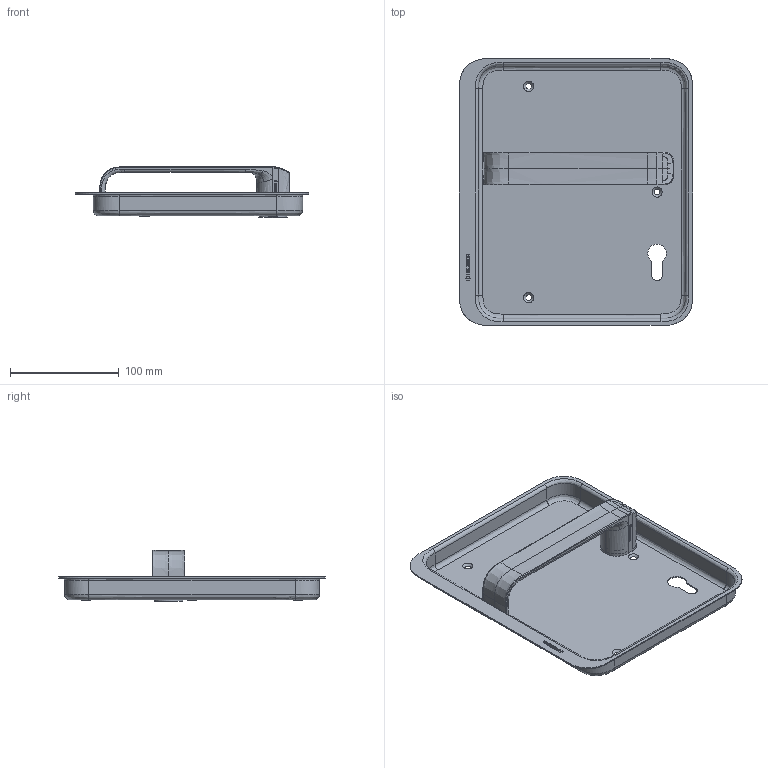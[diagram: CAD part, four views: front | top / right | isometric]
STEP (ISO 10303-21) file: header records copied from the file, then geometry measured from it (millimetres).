
FILE_DESCRIPTION(/* description */ (''),/* implementation_level */ '2;1');
FILE_NAME(/* name */ 'C:\ADSK_DMS_WS\Designs\Vorschläge\Loc Schalen\Muschel Serie 9\S9.20.D4Links\Heusser-Muschel S9.20.D4.378L.stp',/* time_stamp */ '2020-10-12T16:04:00+02:00',/* author */ ('gm'),/* organization */ (''),/* preprocessor_version */ 'ST-DEVELOPER v16.5',/* originating_system */ 'Autodesk Inventor 2017',/* authorisation */ '');
FILE_SCHEMA (('AUTOMOTIVE_DESIGN { 1 0 10303 214 3 1 1 }'));
Length unit declared in the file: millimetre
Products named in the file (1): S9.20.D4Links
Bounding box: 214 x 245 x 47.34 mm (x, y, z)
Volume: 118407.9 mm3; surface area: 152940.2 mm2
Topology: 1 solids, 2 shells, 599 faces, 1592 edges, 1037 vertices
Faces by surface type: plane 289, bspline 267, cylinder 25, cone 18
Full cylindrical faces by diameter (mm): 1.7 x2, 4.917 x1, 14.2 x1, 16 x3, 18 x1, 19 x1, 19.1 x1, 23 x1, 23.2 x1, 24 x1, 25 x1, 26 x1, 28 x1, 28.6 x1
Entity records: 29595 total; most frequent: CARTESIAN_POINT 15854, ORIENTED_EDGE 3094, DIRECTION 1903, EDGE_CURVE 1547, VERTEX_POINT 1027, LINE 887, VECTOR 887, EDGE_LOOP 696
